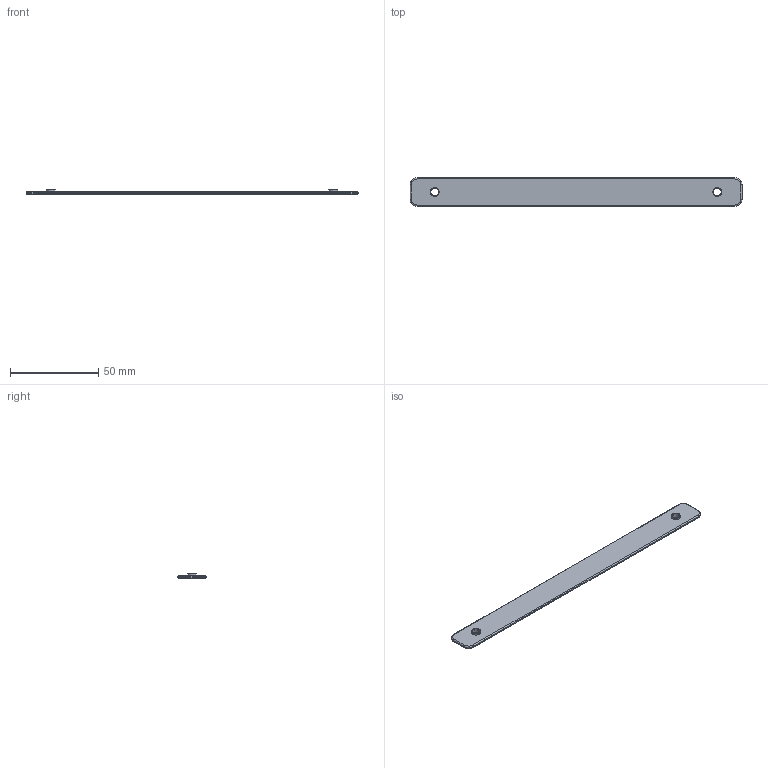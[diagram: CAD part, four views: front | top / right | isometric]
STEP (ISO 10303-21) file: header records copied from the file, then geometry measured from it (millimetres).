
FILE_DESCRIPTION(('Open CASCADE Model'),'2;1');
FILE_NAME('W-BAR-WL160-16','2026-10-19T21:23:52',('Author'),( 'Open CASCADE'),'Open CASCADE STEP processor 8.0','build123d', 'Unknown');
FILE_SCHEMA(('AUTOMOTIVE_DESIGN { 1 0 10303 214 1 1 1 1 }'));
Length unit declared in the file: millimetre
Products named in the file (2): W-BAR-WL160-16; brass_WL160-16__w
Assembly tree (1 placements, depth 2):
  W-BAR-WL160-16
    brass_WL160-16__w
Bounding box: 188 x 16 x 2.49 mm (x, y, z)
Volume: 4419 mm3; surface area: 6480 mm2
Topology: 1 solids, 1 shells, 32 faces, 68 edges, 40 vertices
Faces by surface type: plane 12, cylinder 12, cone 4, torus 4
Full cylindrical faces by diameter (mm): 4.3 x2, 5 x2
Entity records: 1768 total; most frequent: CARTESIAN_POINT 358, DIRECTION 264, ORIENTED_EDGE 136, PCURVE 136, DEFINITIONAL_REPRESENTATION 136, LINE 124, VECTOR 124, EDGE_CURVE 68
